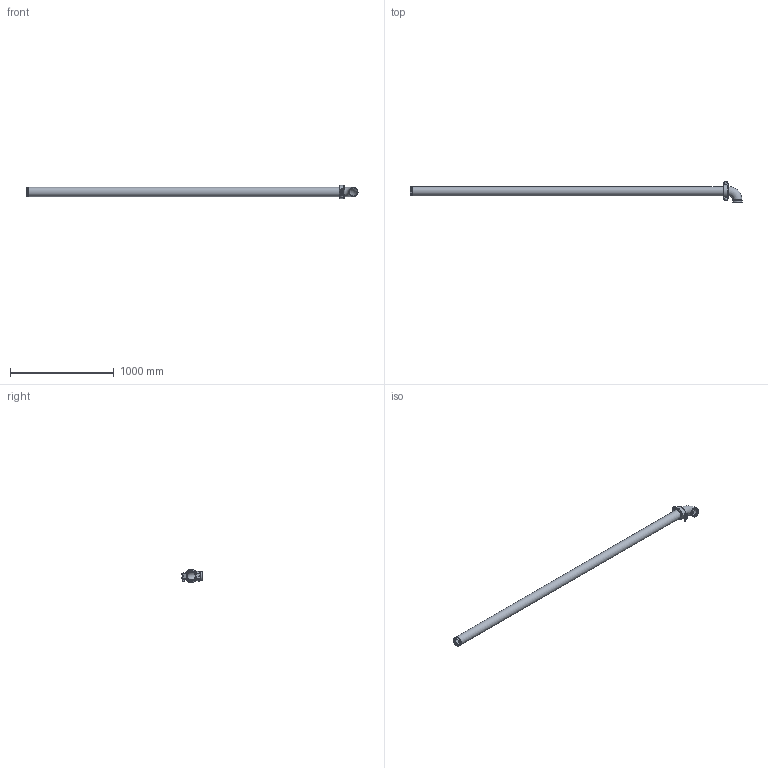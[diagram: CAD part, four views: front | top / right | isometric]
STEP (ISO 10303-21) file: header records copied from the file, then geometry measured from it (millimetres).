
FILE_DESCRIPTION(/* description */ ('VIC LONG RUN FITTING No R23 (OGS)','CAx-IF Rec.Pracs.---Representation and Presentation of Product Manufacturing Information (PMI)---4.0---2014-10-13'),/* implementation_level */ '2;1');
FILE_NAME(/* name */ 'C:\Users\Vjadhav\AppData\Roaming\Autodesk\ApplicationPlugins\Back Up\Victaulic_IPS_Long Run Fittings_No R23 (OGS)\Victaulic_IPS_Long Run Fittings_No R23 (OGS)_3 (80).stp',/* time_stamp */ '2020-10-06T20:01:49+06:00',/* author */ ('Vjadhav'),/* organization */ ('Victaulic'),/* preprocessor_version */ 'ST-DEVELOPER v17.2',/* originating_system */ 'Autodesk Inventor 2019',/* authorisation */ '');
FILE_SCHEMA (('AP242_MANAGED_MODEL_BASED_3D_ENGINEERING_MIM_LF { 1 0 10303 442 1 1 4 }'));
Length unit declared in the file: inch
Products named in the file (4): R23-03.0; 010-03.0; 177N-03.0; Pipe_R13-03.0
Assembly tree (3 placements, depth 2):
  R23-03.0
    010-03.0
    177N-03.0
    Pipe_R13-03.0
Bounding box: 3206.75 x 200.54 x 127 mm (x, y, z)
Volume: 5050957.7 mm3; surface area: 1770367.9 mm2
Topology: 3 solids, 3 shells, 117 faces, 313 edges, 210 vertices
Faces by surface type: plane 68, cylinder 37, torus 6, cone 4, sphere 2
Full cylindrical faces by diameter (mm): 12.7 x2, 22.225 x2, 76.2 x1, 77.927 x3, 84.938 x4, 88.9 x7
Entity records: 4208 total; most frequent: CARTESIAN_POINT 855, DIRECTION 673, ORIENTED_EDGE 634, EDGE_CURVE 317, AXIS2_PLACEMENT_3D 252, VERTEX_POINT 210, LINE 169, VECTOR 169
